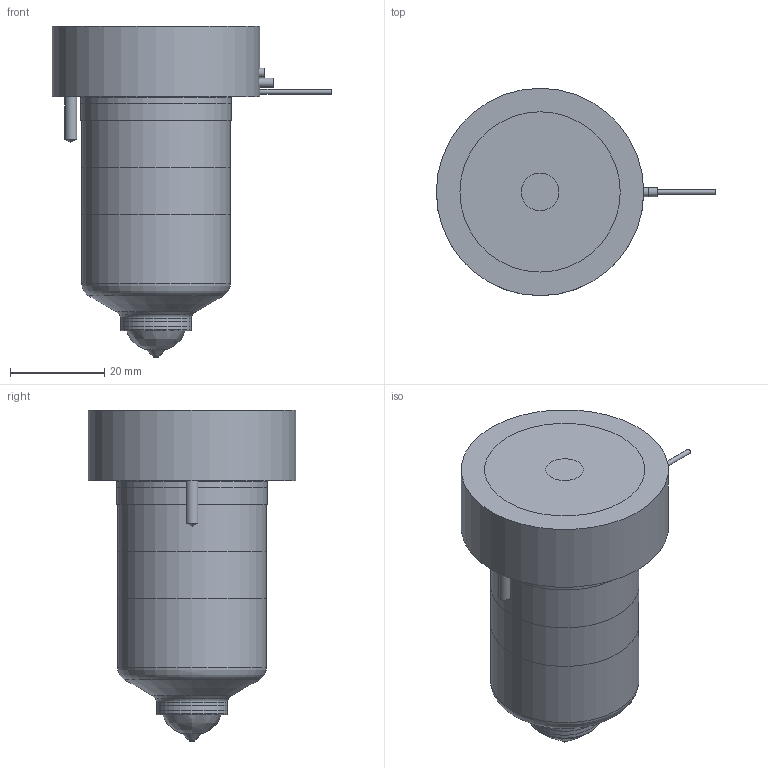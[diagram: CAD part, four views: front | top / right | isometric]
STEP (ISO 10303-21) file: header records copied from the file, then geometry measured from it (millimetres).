
FILE_DESCRIPTION(/* description */ (''),/* implementation_level */ '2;1');
FILE_NAME(/* name */ 'MXTT-MXIT19055_200C_b',/* time_stamp */ '2007-01-18T09:52:11+13:00',/* author */ (''),/* organization */ (''),/* preprocessor_version */ 'ST-DEVELOPER v9',/* originating_system */ 'UGS - NX 4.0',/* authorisation */ '');
FILE_SCHEMA (('CONFIG_CONTROL_DESIGN'));
Length unit declared in the file: millimetre
Products named in the file (1): MXTT-MXIT19055_200C_b
Bounding box: 59.25 x 44 x 70.35 mm (x, y, z)
Volume: 105782.4 mm3; surface area: 21311.2 mm2
Topology: 7 solids, 7 shells, 83 faces, 158 edges, 101 vertices
Faces by surface type: plane 35, cylinder 27, cone 11, torus 8, bspline 2
Full cylindrical faces by diameter (mm): 1 x3, 1.2 x1, 2 x2, 2.5 x2, 8 x1, 14.61 x1, 15.01 x2, 18.3 x1, 25.4 x1, 31.5 x2, 32 x2, 44 x1
Entity records: 2009 total; most frequent: CARTESIAN_POINT 418, DIRECTION 340, ORIENTED_EDGE 222, AXIS2_PLACEMENT_3D 157, EDGE_LOOP 132, EDGE_CURVE 111, VERTEX_POINT 92, ADVANCED_FACE 83
